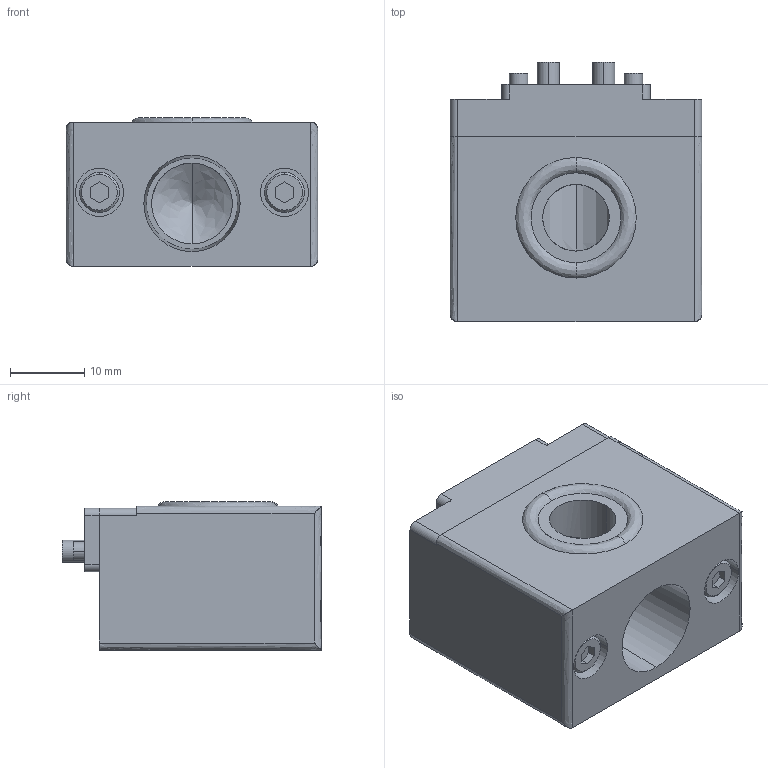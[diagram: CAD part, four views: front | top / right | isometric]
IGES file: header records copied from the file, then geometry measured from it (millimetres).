
Start section: 3D InterOp IGES (v. 2022 1.0.0), Spatial Corp. Copyright (c) 1999-2020.
Global section: file name: KHB-1HS-EP81_ver1.igs; native system: Spatial Corp.; preprocessor: 3D InterOp GENERIC/IGES 3.0; author: Noname; organization: Noname; date: 20260424.091258; units: millimetre
Bounding box: 34 x 35 x 20.1 mm (x, y, z)
Surface area: 7157.2 mm2 (no closed solid volume)
Topology: 0 solids, 0 shells, 200 faces, 940 edges, 938 vertices
Faces by surface type: extrusion 114, revolution 86
